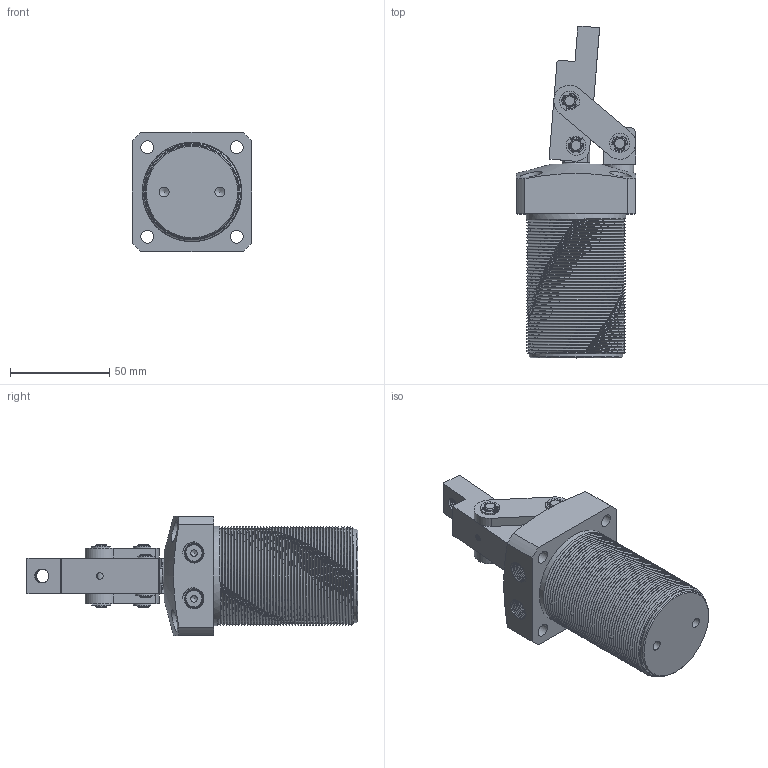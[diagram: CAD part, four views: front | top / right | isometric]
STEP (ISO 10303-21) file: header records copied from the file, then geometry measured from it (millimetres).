
FILE_DESCRIPTION(/* description */ (''),/* implementation_level */ '2;1');
FILE_NAME(/* name */ 'E:\SERWER_ZAPAS\MODELE brakujace\PNEUMATIC\CPLCU(STEP)\cplcu-32_asm\CPLCU-32_OTWARTY.stp',/* time_stamp */ '2019-02-08T14:07:06+01:00',/* author */ ('Admin'),/* organization */ (''),/* preprocessor_version */ 'ST-DEVELOPER v17.2',/* originating_system */ 'Autodesk Inventor 2019',/* authorisation */ '');
FILE_SCHEMA (('AUTOMOTIVE_DESIGN { 1 0 10303 214 3 1 1 }'));
Products named in the file (10): CPLCU-32_OTWARTY; CPLCU-32-06; CPLCU-32-07; CPLCU-32-01; CPLCU-32-05; CPLCU-32-02; CPLCU-32-08; CPLCU-32-03; CPLCU-32-04; LHC01D-32-01
Assembly tree (21 placements, depth 2):
  CPLCU-32_OTWARTY
    CPLCU-32-06
    CPLCU-32-07
    CPLCU-32-01
    CPLCU-32-08  x6
    CPLCU-32-05
    CPLCU-32-02  x2
    CPLCU-32-03
    CPLCU-32-04  x2
    LHC01D-32-01  x6
Bounding box: 60 x 167.08 x 60 mm (x, y, z)
Volume: 217297.4 mm3; surface area: 70575.7 mm2
Topology: 21 solids, 21 shells, 551 faces, 1507 edges, 1028 vertices
Faces by surface type: cylinder 246, plane 150, cone 82, bspline 65, torus 7, sphere 1
Full cylindrical faces by diameter (mm): 3.3 x2, 3.4 x10, 5 x8, 6 x18, 6.5 x4, 7 x11, 8 x13, 8.4 x9, 10 x6, 11 x4, 14 x2, 16 x2, 24.5 x1, 28 x2, 32 x4, 47 x1, 50 x44
Entity records: 45174 total; most frequent: CARTESIAN_POINT 35622, ORIENTED_EDGE 2084, DIRECTION 1635, EDGE_CURVE 1042, VERTEX_POINT 715, AXIS2_PLACEMENT_3D 641, EDGE_LOOP 438, B_SPLINE_CURVE_WITH_KNOTS 386
